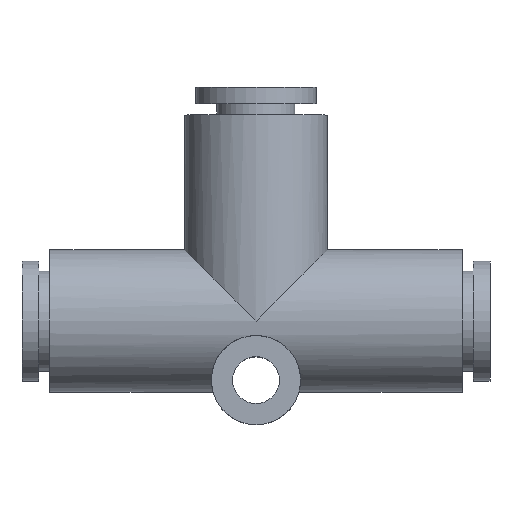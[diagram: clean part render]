
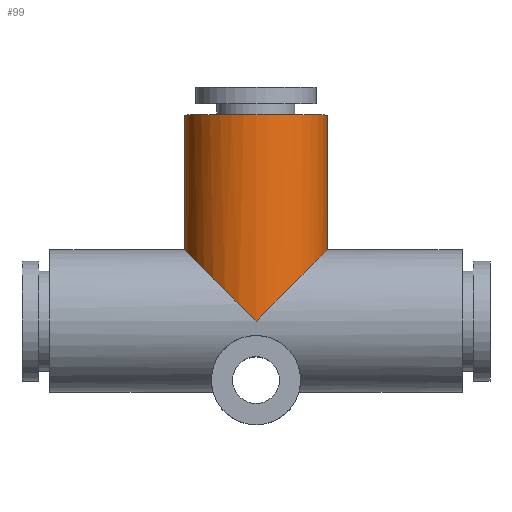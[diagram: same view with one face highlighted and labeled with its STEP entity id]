
A CAD part, top view. The second image highlights one B-rep face of the part: STEP entity #99.
In plain terms, the highlighted cylindrical face has radius 6.4 mm (diameter 12.8 mm), a partial arc.
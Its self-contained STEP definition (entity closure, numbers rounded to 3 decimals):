
#99 = ADVANCED_FACE( '', ( #167 ), #168, .T. );
#167 = FACE_OUTER_BOUND( '', #260, .T. );
#168 = CYLINDRICAL_SURFACE( '', #261, 6.4 );
#260 = EDGE_LOOP( '', ( #479, #480, #481, #482, #483 ) );
#261 = AXIS2_PLACEMENT_3D( '', #484, #485, #486 );
#479 = ORIENTED_EDGE( '', *, *, #641, .T. );
#480 = ORIENTED_EDGE( '', *, *, #679, .F. );
#481 = ORIENTED_EDGE( '', *, *, #642, .T. );
#482 = ORIENTED_EDGE( '', *, *, #680, .F. );
#483 = ORIENTED_EDGE( '', *, *, #681, .F. );
#484 = CARTESIAN_POINT( '', ( 0., 9.25, 0. ) );
#485 = DIRECTION( '', ( 0., -1., 0. ) );
#486 = DIRECTION( '', ( 1., 0., 0. ) );
#641 = EDGE_CURVE( '', #713, #766, #767, .T. );
#642 = EDGE_CURVE( '', #768, #729, #769, .T. );
#679 = EDGE_CURVE( '', #768, #766, #828, .T. );
#680 = EDGE_CURVE( '', #829, #729, #830, .T. );
#681 = EDGE_CURVE( '', #713, #829, #831, .T. );
#713 = VERTEX_POINT( '', #867 );
#729 = VERTEX_POINT( '', #941 );
#766 = VERTEX_POINT( '', #987 );
#767 = LINE( '', #988, #989 );
#768 = VERTEX_POINT( '', #990 );
#769 = LINE( '', #991, #992 );
#828 = CIRCLE( '', #1118, 6.4 );
#829 = VERTEX_POINT( '', #1119 );
#830 = ELLIPSE( '', #1120, 9.051, 6.4 );
#831 = ELLIPSE( '', #1121, 9.051, 6.4 );
#867 = CARTESIAN_POINT( '', ( 6.4, 6.4, 0. ) );
#941 = CARTESIAN_POINT( '', ( -6.4, 6.4, 0. ) );
#987 = CARTESIAN_POINT( '', ( 6.4, 18.5, 0. ) );
#988 = CARTESIAN_POINT( '', ( 6.4, 9.25, 0. ) );
#989 = VECTOR( '', #1200, 1. );
#990 = CARTESIAN_POINT( '', ( -6.4, 18.5, 0. ) );
#991 = CARTESIAN_POINT( '', ( -6.4, 9.25, 0. ) );
#992 = VECTOR( '', #1201, 1. );
#1118 = AXIS2_PLACEMENT_3D( '', #1277, #1278, #1279 );
#1119 = CARTESIAN_POINT( '', ( 0., 0., 6.4 ) );
#1120 = AXIS2_PLACEMENT_3D( '', #1280, #1281, #1282 );
#1121 = AXIS2_PLACEMENT_3D( '', #1283, #1284, #1285 );
#1200 = DIRECTION( '', ( 0., 1., 0. ) );
#1201 = DIRECTION( '', ( 0., -1., 0. ) );
#1277 = CARTESIAN_POINT( '', ( 0., 18.5, 0. ) );
#1278 = DIRECTION( '', ( 0., 1., 0. ) );
#1279 = DIRECTION( '', ( 1., 0., 0. ) );
#1280 = CARTESIAN_POINT( '', ( 0., 0., 0. ) );
#1281 = DIRECTION( '', ( -0.707, -0.707, 0. ) );
#1282 = DIRECTION( '', ( 0.707, -0.707, 0. ) );
#1283 = CARTESIAN_POINT( '', ( 0., 0., 0. ) );
#1284 = DIRECTION( '', ( 0.707, -0.707, 0. ) );
#1285 = DIRECTION( '', ( 0.707, 0.707, 0. ) );
